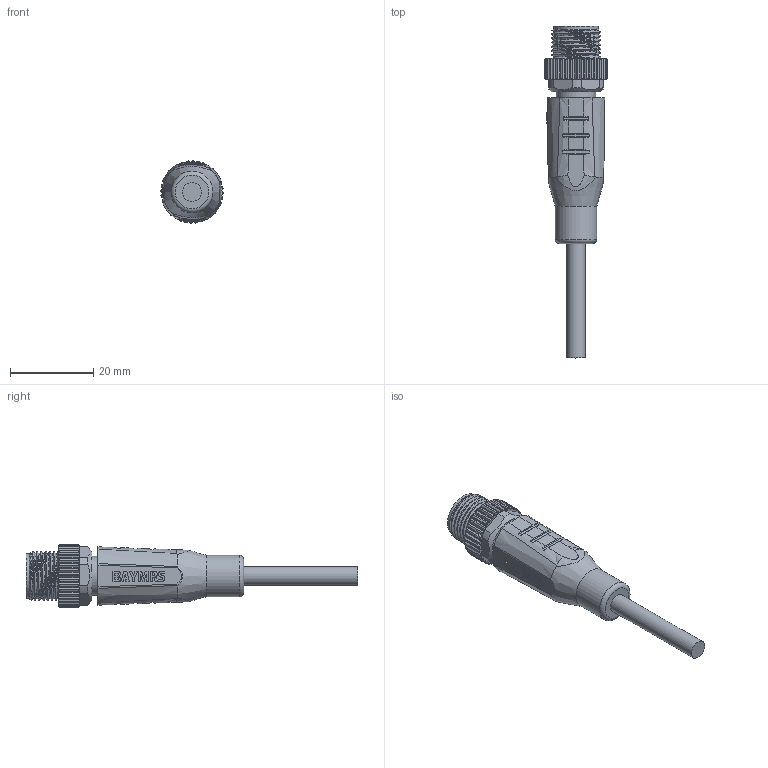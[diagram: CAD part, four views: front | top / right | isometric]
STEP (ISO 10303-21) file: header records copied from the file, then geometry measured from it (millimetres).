
FILE_DESCRIPTION(/* description */ (''),/* implementation_level */ '2;1');
FILE_NAME(/* name */ 'M12-4MS.P-L.stp',/* time_stamp */ '2022-01-19T15:07:27+08:00',/* author */ (''),/* organization */ (''),/* preprocessor_version */ 'ST-DEVELOPER v16.7',/* originating_system */ 'SIEMENS PLM Software NX 12.0',/* authorisation */ '');
FILE_SCHEMA (('AP203_CONFIGURATION_CONTROLLED_3D_DESIGN_OF_MECHANICAL_PARTS_AND_ASSEMBLIES_MIM_LF { 1 0 10303 403 2 1 2}'));
Length unit declared in the file: millimetre
Products named in the file (1): Admi2CD83BE1xu8e
Bounding box: 15 x 79.8 x 15 mm (x, y, z)
Volume: 6563.9 mm3; surface area: 4743.4 mm2
Topology: 1 solids, 13 shells, 556 faces, 1528 edges, 1010 vertices
Faces by surface type: plane 217, cylinder 179, cone 100, bspline 24, extrusion 22, sphere 8, torus 6
Full cylindrical faces by diameter (mm): 2.1 x13, 4.5 x1, 9.4 x1, 9.5 x1, 10 x1, 10.8 x1
Entity records: 20760 total; most frequent: CARTESIAN_POINT 7004, ORIENTED_EDGE 2960, DIRECTION 2677, EDGE_CURVE 1480, AXIS2_PLACEMENT_3D 998, VERTEX_POINT 992, VECTOR 681, LINE 659
